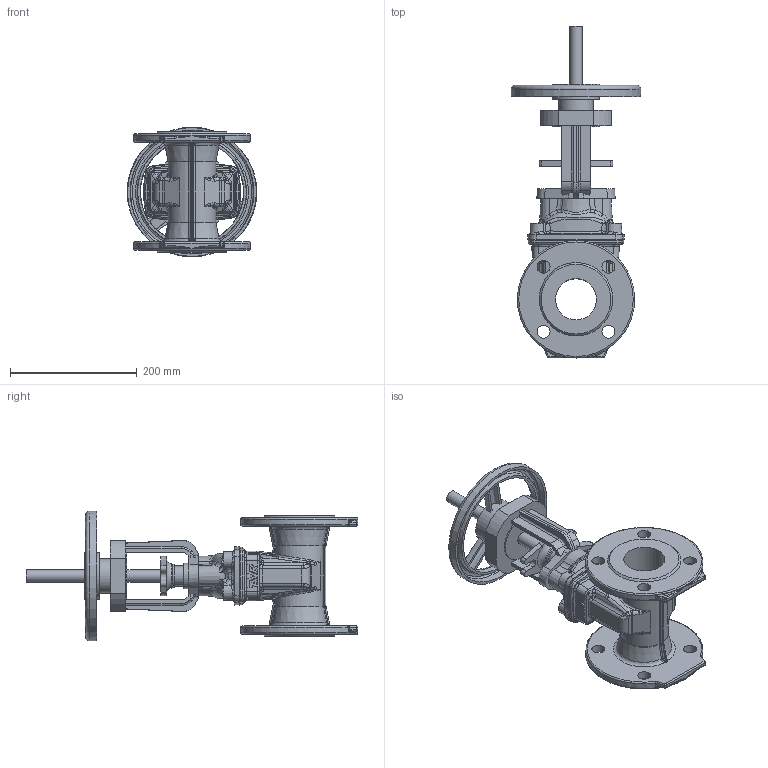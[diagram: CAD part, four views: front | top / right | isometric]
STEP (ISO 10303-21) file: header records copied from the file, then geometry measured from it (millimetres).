
FILE_DESCRIPTION (( 'STEP AP203' ), '1' );
FILE_NAME ('O_21_34_DN065_41XXXXX open_AA0.step', '2020-02-12T08:59:42', ( 'Windows User' ), ( 'AVK' ), 'SwSTEP 2.0', 'SolidWorks 2012', '' );
FILE_SCHEMA (( 'CONFIG_CONTROL_DESIGN' ));
Length unit declared in the file: millimetre
Products named in the file (1): O_21_34_DN065_41XXXXX open_AA0
Bounding box: 204.98 x 524.4 x 204.98 mm (x, y, z)
Volume: 2867650.4 mm3; surface area: 414424.4 mm2
Topology: 1 solids, 1 shells, 835 faces, 2051 edges, 1208 vertices
Faces by surface type: bspline 308, cylinder 194, plane 189, torus 79, cone 65
Full cylindrical faces by diameter (mm): 18 x4, 20 x2, 20.5 x8, 31.9 x1, 37 x1, 40 x1, 55 x1, 65 x1, 74 x1, 185 x2
Entity records: 34081 total; most frequent: CARTESIAN_POINT 17080, ORIENTED_EDGE 3944, DIRECTION 2992, EDGE_CURVE 1972, AXIS2_PLACEMENT_3D 1200, VERTEX_POINT 1190, EDGE_LOOP 914, FACE_OUTER_BOUND 865
